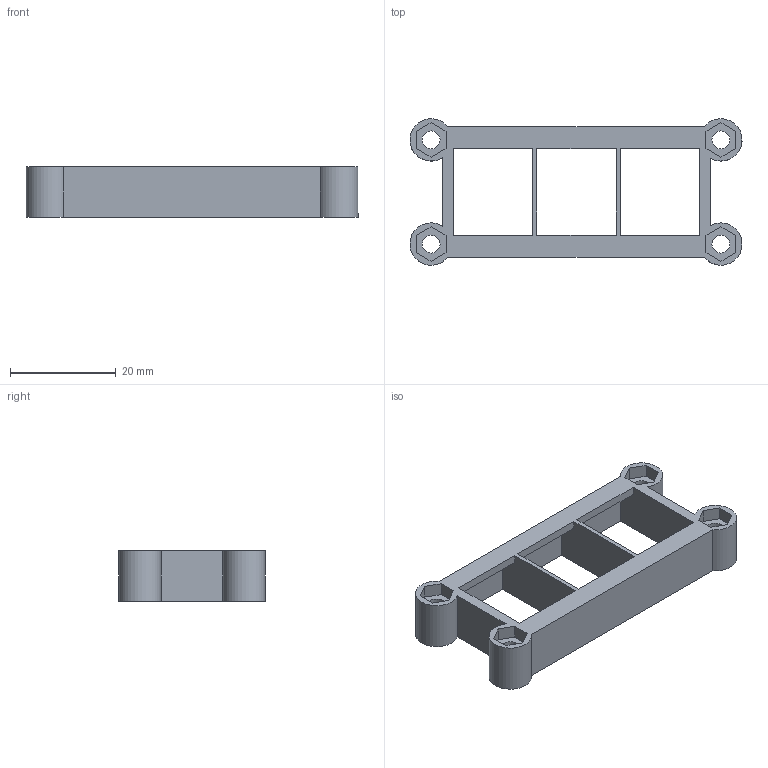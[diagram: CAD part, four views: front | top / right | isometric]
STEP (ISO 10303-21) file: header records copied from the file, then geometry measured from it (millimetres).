
FILE_DESCRIPTION(('Open CASCADE Model'),'2;1');
FILE_NAME('Open CASCADE Shape Model','2026-10-03T22:44:22',('Author'),( 'Open CASCADE'),'Open CASCADE STEP processor 7.8','Open CASCADE 7.8' ,'Unknown');
FILE_SCHEMA(('AUTOMOTIVE_DESIGN { 1 0 10303 214 1 1 1 1 }'));
Length unit declared in the file: millimetre
Products named in the file (1): Open CASCADE STEP translator 7.8 4
Bounding box: 62.78 x 27.69 x 9.5 mm (x, y, z)
Volume: 3539.2 mm3; surface area: 5759.6 mm2
Topology: 1 solids, 1 shells, 66 faces, 180 edges, 120 vertices
Faces by surface type: plane 58, cylinder 8
Full cylindrical faces by diameter (mm): 3.4 x4
Entity records: 4459 total; most frequent: CARTESIAN_POINT 769, DIRECTION 683, LINE 508, VECTOR 508, ORIENTED_EDGE 360, PCURVE 360, DEFINITIONAL_REPRESENTATION 360, EDGE_CURVE 180
